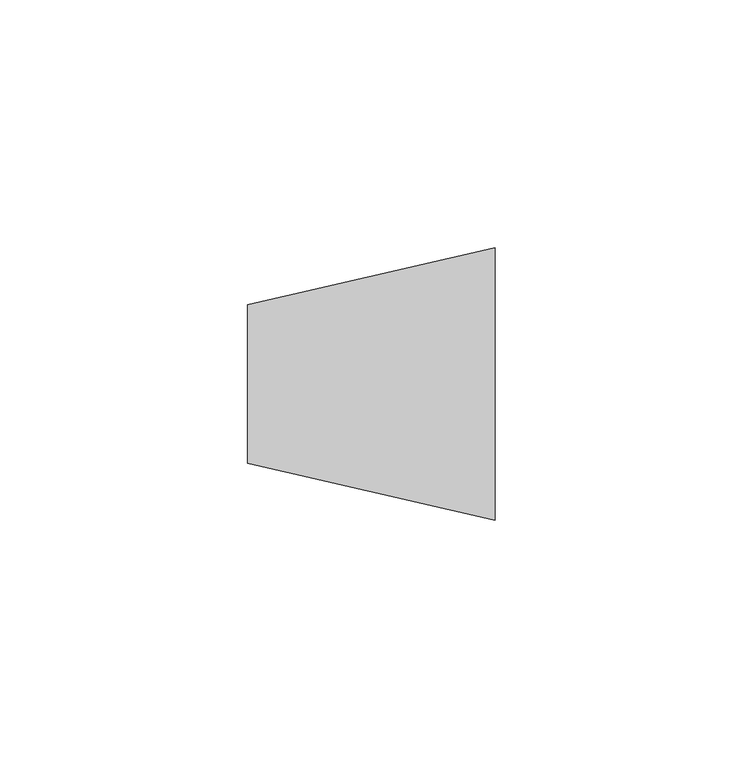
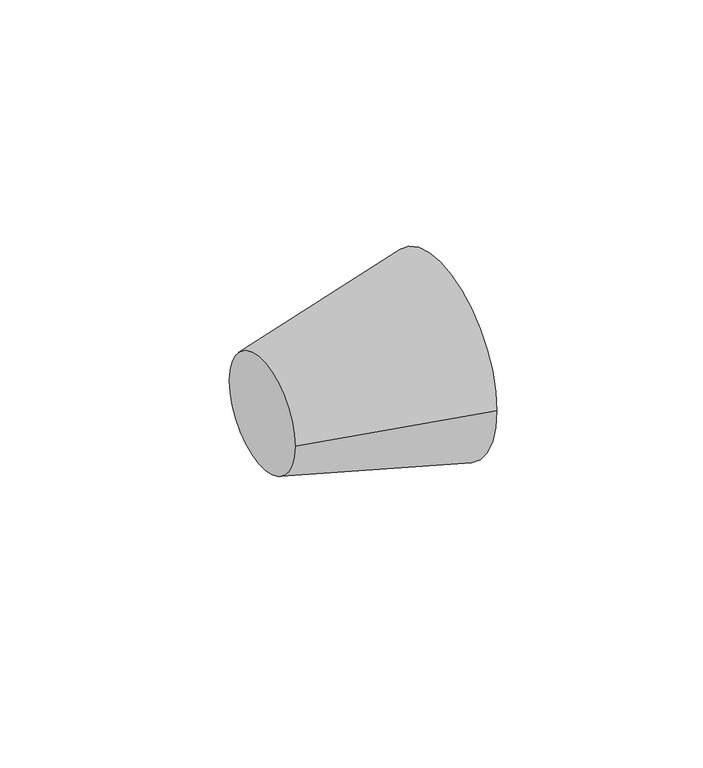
"""IFC4 building model written with IfcOpenShell, lengths in millimetres: pipe fitting geometry, ADSK_ЧугунРезьба_МуфтаПереходная_ГОСТ8957-75 : Неоцинкованные."""

from ifc_helpers import new_model, si_unit, frame, origin, place, context, project, spatial, polyline, circle_curve, source, transform, mapped, element, save
from ifc_brep_helpers import plane_surface, revolved_surface, advanced_brep


def pipe_fitting_ddad4193(model_context):
    return source(origin(), model_context, "Body", "AdvancedBrep", [
        advanced_brep(
        [(50.0, -27.5, 0.0), (50.0, 27.5, 0.0), (0.0, -16.0, 0.0), (0.0, 16.0, 0.0)],
        [
            (0, 1, circle_curve(frame((50.0, 0.0, 0.0), z_axis=(1.0, 0.0, 0.0), x_axis=(0.0, -1.0, 0.0)), 27.5)),
            (1, 0, circle_curve(frame((50.0, 0.0, 0.0), z_axis=(1.0, 0.0, 0.0), x_axis=(0.0, 1.0, 0.0)), 27.5)),
            (2, 3, circle_curve(frame((0.0, 0.0, 0.0), z_axis=(-1.0, 0.0, 0.0), x_axis=(0.0, 1.0, 0.0)), 16.0)),
            (3, 2, circle_curve(frame((0.0, 0.0, 0.0), z_axis=(-1.0, 0.0, 0.0), x_axis=(0.0, -1.0, 0.0)), 16.0)),
            (3, 1),
            (0, 2),
        ],
        [
            plane_surface(frame((50.0, 0.0, 0.0), z_axis=(1.0, 0.0, 0.0), x_axis=(0.0, 0.0, -1.0))),
            plane_surface(frame((0.0, 0.0, 0.0), z_axis=(-1.0, 0.0, 0.0), x_axis=(0.0, 0.0, -1.0))),
            revolved_surface(polyline([(0.0, 16.000000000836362, 0.0), (50.0, 27.5, 0.0)]), (-69.5652174, 0.0, 0.0), (1.0, 0.0, 0.0)),
            revolved_surface(polyline([(0.0, -16.000000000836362, 0.0), (50.0, -27.5, 0.0)]), (-69.5652174, 0.0, 0.0), (1.0, 0.0, 0.0)),
        ],
        [
            (0, [[1, 2]]),
            (1, [[3, 4]]),
            (2, [[-4, 5, -1, 6]]),
            (3, [[-3, -6, -2, -5]]),
        ],
    ),
    ])


if __name__ == "__main__":
    model = new_model("IFC4")
    model_context = context("Model", 3, world=origin())
    ifc_project = project(units=[si_unit("LENGTHUNIT", "METRE", prefix="MILLI")], contexts=[model_context])
    site = spatial("IfcSite", under=ifc_project)
    building = spatial("IfcBuilding", under=site)
    placement = place(None, origin())
    pipe_fitting_shape = pipe_fitting_ddad4193(model_context)
    element("IfcPipeFitting", 1, ObjectType="ADSK_ЧугунРезьба_МуфтаПереходная_ГОСТ8957-75 : Неоцинкованные", at=placement, inside=building, context=model_context, shape_type="MappedRepresentation", body=[
        mapped(pipe_fitting_shape, transform((0.0, 0.0, 0.0), x_axis=(1.0, 0.0, 0.0), y_axis=(0.0, 1.0, 0.0), z_axis=(0.0, 0.0, 1.0))),
    ])
    save(model, "model.ifc")
